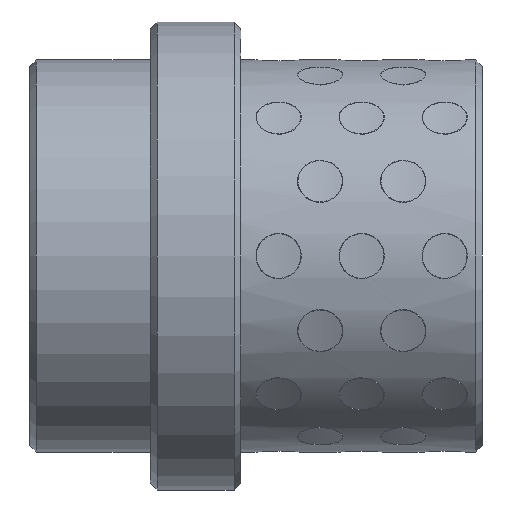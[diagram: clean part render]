
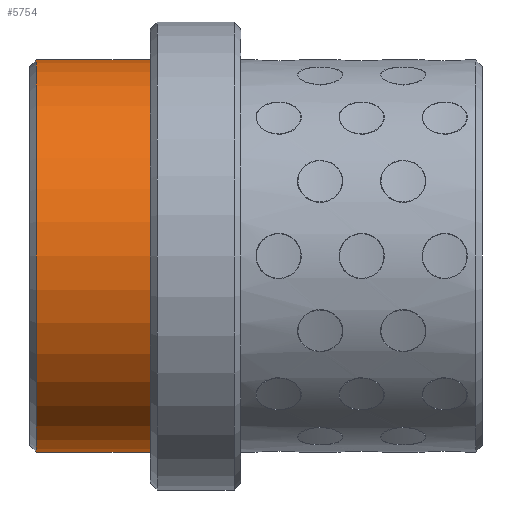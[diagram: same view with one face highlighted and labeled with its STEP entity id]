
A CAD part, front view. The second image highlights one B-rep face of the part: STEP entity #5754.
In plain terms, the highlighted cylindrical face has radius 13 mm (diameter 26 mm), a partial arc.
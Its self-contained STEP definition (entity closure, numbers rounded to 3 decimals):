
#3636=CARTESIAN_POINT('',(0.,0.,0.));
#3637=DIRECTION('',(1.,0.,0.));
#3638=DIRECTION('',(0.,0.,1.));
#3639=AXIS2_PLACEMENT_3D('',#3636,#3637,#3638);
#3656=CARTESIAN_POINT('',(-7.55,0.,0.));
#3657=DIRECTION('',(1.,0.,0.));
#3658=DIRECTION('',(0.,0.,1.));
#3659=AXIS2_PLACEMENT_3D('',#3656,#3657,#3658);
#3674=DIRECTION('',(1.,0.,0.));
#3675=VECTOR('',#3674,7.55);
#3676=CARTESIAN_POINT('',(-7.55,0.,
-13.));
#3677=LINE('',#3676,#3675);
#3678=DIRECTION('',(1.,0.,0.));
#3679=VECTOR('',#3678,7.55);
#3680=CARTESIAN_POINT('',(-7.55,0.,
13.));
#3681=LINE('',#3680,#3679);
#3964=CARTESIAN_POINT('',(0.,0.,13.));
#3965=CARTESIAN_POINT('',(0.,0.,-13.));
#3966=VERTEX_POINT('',#3964);
#3967=VERTEX_POINT('',#3965);
#3972=CARTESIAN_POINT('',(-7.55,0.,13.));
#3973=CARTESIAN_POINT('',(-7.55,0.,-13.));
#3974=VERTEX_POINT('',#3972);
#3975=VERTEX_POINT('',#3973);
#5740=CARTESIAN_POINT('',(-9.5,0.,0.));
#5741=DIRECTION('',(1.,0.,0.));
#5742=DIRECTION('',(0.,0.,1.));
#5743=AXIS2_PLACEMENT_3D('',#5740,#5741,#5742);
#5744=CYLINDRICAL_SURFACE('',#5743,13.);
#5746=ORIENTED_EDGE('',*,*,#5745,.F.);
#5748=ORIENTED_EDGE('',*,*,#5747,.T.);
#5749=ORIENTED_EDGE('',*,*,#5733,.T.);
#5751=ORIENTED_EDGE('',*,*,#5750,.F.);
#5752=EDGE_LOOP('',(#5746,#5748,#5749,#5751));
#5753=FACE_OUTER_BOUND('',#5752,.F.);
#5754=ADVANCED_FACE('',(#5753),#5744,.T.);
#3640=CIRCLE('',#3639,13.);
#3660=CIRCLE('',#3659,13.);
#5733=EDGE_CURVE('',#3966,#3967,#3640,.T.);
#5745=EDGE_CURVE('',#3974,#3975,#3660,.T.);
#5747=EDGE_CURVE('',#3974,#3966,#3681,.T.);
#5750=EDGE_CURVE('',#3975,#3967,#3677,.T.);
